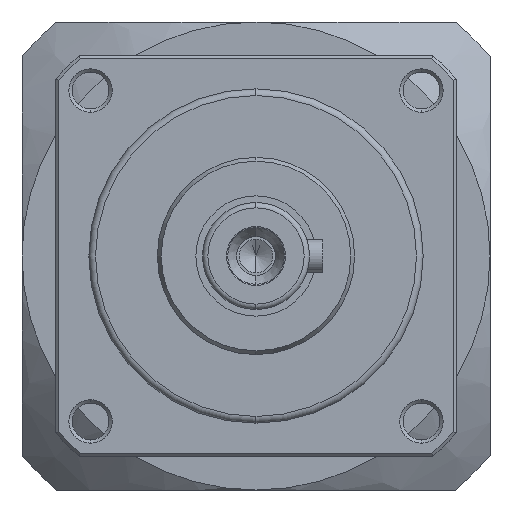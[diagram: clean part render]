
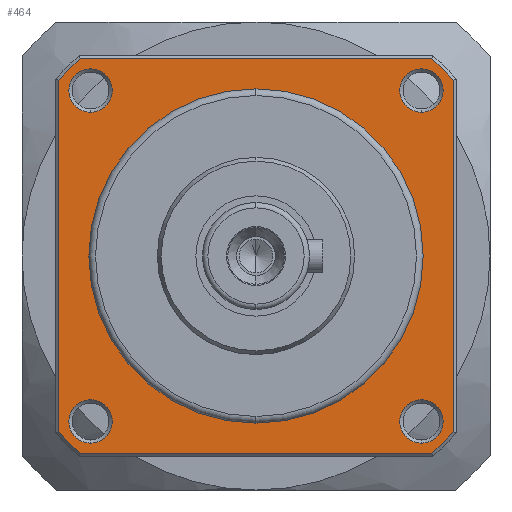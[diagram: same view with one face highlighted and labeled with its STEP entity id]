
A CAD part, left-side view. The second image highlights one B-rep face of the part: STEP entity #464.
In plain terms, the highlighted planar face has unit normal (-1, 0, 0).
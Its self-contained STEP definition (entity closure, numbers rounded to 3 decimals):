
#176=PLANE('',#4654);
#282=FACE_BOUND('',#1096,.T.);
#283=FACE_BOUND('',#1097,.T.);
#284=FACE_BOUND('',#1098,.T.);
#285=FACE_BOUND('',#1099,.T.);
#286=FACE_BOUND('',#1100,.T.);
#287=FACE_BOUND('',#1101,.T.);
#464=ADVANCED_FACE('',(#282,#283,#284,#285,#286,#287),#176,.F.);
#1096=EDGE_LOOP('',(#2117,#2118));
#1097=EDGE_LOOP('',(#2119,#2120));
#1098=EDGE_LOOP('',(#2121,#2122));
#1099=EDGE_LOOP('',(#2123,#2124));
#1100=EDGE_LOOP('',(#2125,#2126,#2127,#2128,#2129,#2130,#2131,#2132));
#1101=EDGE_LOOP('',(#2133,#2134));
#1438=LINE('',#6751,#1741);
#1439=LINE('',#6756,#1742);
#1440=LINE('',#6760,#1743);
#1441=LINE('',#6764,#1744);
#1741=VECTOR('',#5339,1.);
#1742=VECTOR('',#5342,1.);
#1743=VECTOR('',#5345,1.);
#1744=VECTOR('',#5348,1.);
#2117=ORIENTED_EDGE('',*,*,#3701,.T.);
#2118=ORIENTED_EDGE('',*,*,#3770,.T.);
#2119=ORIENTED_EDGE('',*,*,#3693,.T.);
#2120=ORIENTED_EDGE('',*,*,#3771,.T.);
#2121=ORIENTED_EDGE('',*,*,#3685,.T.);
#2122=ORIENTED_EDGE('',*,*,#3772,.T.);
#2123=ORIENTED_EDGE('',*,*,#3677,.T.);
#2124=ORIENTED_EDGE('',*,*,#3773,.T.);
#2125=ORIENTED_EDGE('',*,*,#3774,.T.);
#2126=ORIENTED_EDGE('',*,*,#3775,.T.);
#2127=ORIENTED_EDGE('',*,*,#3776,.T.);
#2128=ORIENTED_EDGE('',*,*,#3777,.T.);
#2129=ORIENTED_EDGE('',*,*,#3778,.T.);
#2130=ORIENTED_EDGE('',*,*,#3779,.T.);
#2131=ORIENTED_EDGE('',*,*,#3780,.T.);
#2132=ORIENTED_EDGE('',*,*,#3781,.T.);
#2133=ORIENTED_EDGE('',*,*,#3735,.F.);
#2134=ORIENTED_EDGE('',*,*,#3782,.F.);
#3294=VERTEX_POINT('',#6538);
#3295=VERTEX_POINT('',#6540);
#3302=VERTEX_POINT('',#6556);
#3303=VERTEX_POINT('',#6558);
#3310=VERTEX_POINT('',#6574);
#3311=VERTEX_POINT('',#6576);
#3318=VERTEX_POINT('',#6592);
#3319=VERTEX_POINT('',#6594);
#3341=VERTEX_POINT('',#6662);
#3342=VERTEX_POINT('',#6663);
#3371=VERTEX_POINT('',#6752);
#3372=VERTEX_POINT('',#6753);
#3373=VERTEX_POINT('',#6755);
#3374=VERTEX_POINT('',#6757);
#3375=VERTEX_POINT('',#6759);
#3376=VERTEX_POINT('',#6761);
#3377=VERTEX_POINT('',#6763);
#3378=VERTEX_POINT('',#6765);
#3677=EDGE_CURVE('',#3295,#3294,#4309,.T.);
#3685=EDGE_CURVE('',#3303,#3302,#4313,.T.);
#3693=EDGE_CURVE('',#3311,#3310,#4317,.T.);
#3701=EDGE_CURVE('',#3319,#3318,#4321,.T.);
#3735=EDGE_CURVE('',#3341,#3342,#4336,.T.);
#3770=EDGE_CURVE('',#3318,#3319,#4351,.T.);
#3771=EDGE_CURVE('',#3310,#3311,#4352,.T.);
#3772=EDGE_CURVE('',#3302,#3303,#4353,.T.);
#3773=EDGE_CURVE('',#3294,#3295,#4354,.T.);
#3774=EDGE_CURVE('',#3371,#3372,#1438,.T.);
#3775=EDGE_CURVE('',#3372,#3373,#4355,.T.);
#3776=EDGE_CURVE('',#3373,#3374,#1439,.T.);
#3777=EDGE_CURVE('',#3374,#3375,#4356,.T.);
#3778=EDGE_CURVE('',#3375,#3376,#1440,.T.);
#3779=EDGE_CURVE('',#3376,#3377,#4357,.T.);
#3780=EDGE_CURVE('',#3377,#3378,#1441,.T.);
#3781=EDGE_CURVE('',#3378,#3371,#4358,.T.);
#3782=EDGE_CURVE('',#3342,#3341,#4359,.T.);
#4309=CIRCLE('',#4576,3.25);
#4313=CIRCLE('',#4582,3.25);
#4317=CIRCLE('',#4588,3.25);
#4321=CIRCLE('',#4594,3.25);
#4336=CIRCLE('',#4621,25.);
#4351=CIRCLE('',#4645,3.25);
#4352=CIRCLE('',#4646,3.25);
#4353=CIRCLE('',#4647,3.25);
#4354=CIRCLE('',#4648,3.25);
#4355=CIRCLE('',#4649,39.5);
#4356=CIRCLE('',#4650,39.5);
#4357=CIRCLE('',#4651,39.5);
#4358=CIRCLE('',#4652,39.5);
#4359=CIRCLE('',#4653,25.);
#4576=AXIS2_PLACEMENT_3D('',#6539,#5146,#5147);
#4582=AXIS2_PLACEMENT_3D('',#6557,#5162,#5163);
#4588=AXIS2_PLACEMENT_3D('',#6575,#5178,#5179);
#4594=AXIS2_PLACEMENT_3D('',#6593,#5194,#5195);
#4621=AXIS2_PLACEMENT_3D('',#6661,#5267,#5268);
#4645=AXIS2_PLACEMENT_3D('',#6747,#5331,#5332);
#4646=AXIS2_PLACEMENT_3D('',#6748,#5333,#5334);
#4647=AXIS2_PLACEMENT_3D('',#6749,#5335,#5336);
#4648=AXIS2_PLACEMENT_3D('',#6750,#5337,#5338);
#4649=AXIS2_PLACEMENT_3D('',#6754,#5340,#5341);
#4650=AXIS2_PLACEMENT_3D('',#6758,#5343,#5344);
#4651=AXIS2_PLACEMENT_3D('',#6762,#5346,#5347);
#4652=AXIS2_PLACEMENT_3D('',#6766,#5349,#5350);
#4653=AXIS2_PLACEMENT_3D('',#6767,#5351,#5352);
#4654=AXIS2_PLACEMENT_3D('',#6768,#5353,#5354);
#5146=DIRECTION('',(1.,0.,0.));
#5147=DIRECTION('',(0.,0.,-1.));
#5162=DIRECTION('',(1.,0.,0.));
#5163=DIRECTION('',(0.,0.,-1.));
#5178=DIRECTION('',(1.,0.,0.));
#5179=DIRECTION('',(0.,0.,-1.));
#5194=DIRECTION('',(1.,0.,0.));
#5195=DIRECTION('',(0.,0.,-1.));
#5267=DIRECTION('',(-1.,0.,0.));
#5268=DIRECTION('',(0.,0.,1.));
#5331=DIRECTION('',(1.,0.,0.));
#5332=DIRECTION('',(0.,0.,-1.));
#5333=DIRECTION('',(1.,0.,0.));
#5334=DIRECTION('',(0.,0.,-1.));
#5335=DIRECTION('',(1.,0.,0.));
#5336=DIRECTION('',(0.,0.,-1.));
#5337=DIRECTION('',(1.,0.,0.));
#5338=DIRECTION('',(0.,0.,-1.));
#5339=DIRECTION('',(0.,1.,0.));
#5340=DIRECTION('',(-1.,0.,0.));
#5341=DIRECTION('',(0.,0.,-1.));
#5342=DIRECTION('',(0.,0.,-1.));
#5343=DIRECTION('',(-1.,0.,0.));
#5344=DIRECTION('',(0.,0.,-1.));
#5345=DIRECTION('',(0.,-1.,0.));
#5346=DIRECTION('',(-1.,0.,0.));
#5347=DIRECTION('',(0.,0.,-1.));
#5348=DIRECTION('',(0.,0.,1.));
#5349=DIRECTION('',(-1.,0.,0.));
#5350=DIRECTION('',(0.,0.,-1.));
#5351=DIRECTION('',(-1.,0.,0.));
#5352=DIRECTION('',(0.,0.,1.));
#5353=DIRECTION('',(1.,0.,0.));
#5354=DIRECTION('',(0.,0.,-1.));
#6538=CARTESIAN_POINT('',(37.,24.749,21.499));
#6539=CARTESIAN_POINT('',(37.,24.749,24.749));
#6540=CARTESIAN_POINT('',(37.,24.749,27.999));
#6556=CARTESIAN_POINT('',(37.,24.749,-27.999));
#6557=CARTESIAN_POINT('',(37.,24.749,-24.749));
#6558=CARTESIAN_POINT('',(37.,24.749,-21.499));
#6574=CARTESIAN_POINT('',(37.,-24.749,-27.999));
#6575=CARTESIAN_POINT('',(37.,-24.749,-24.749));
#6576=CARTESIAN_POINT('',(37.,-24.749,-21.499));
#6592=CARTESIAN_POINT('',(37.,-24.749,21.499));
#6593=CARTESIAN_POINT('',(37.,-24.749,24.749));
#6594=CARTESIAN_POINT('',(37.,-24.749,27.999));
#6661=CARTESIAN_POINT('',(37.,0.,0.));
#6662=CARTESIAN_POINT('',(37.,0.,25.));
#6663=CARTESIAN_POINT('',(37.,0.,-25.));
#6747=CARTESIAN_POINT('',(37.,-24.749,24.749));
#6748=CARTESIAN_POINT('',(37.,-24.749,-24.749));
#6749=CARTESIAN_POINT('',(37.,24.749,-24.749));
#6750=CARTESIAN_POINT('',(37.,24.749,24.749));
#6751=CARTESIAN_POINT('',(37.,26.458,29.5));
#6752=CARTESIAN_POINT('',(37.,-26.268,29.5));
#6753=CARTESIAN_POINT('',(37.,26.268,29.5));
#6754=CARTESIAN_POINT('',(37.,0.,0.));
#6755=CARTESIAN_POINT('',(37.,29.5,26.268));
#6756=CARTESIAN_POINT('',(37.,29.5,-26.458));
#6757=CARTESIAN_POINT('',(37.,29.5,-26.268));
#6758=CARTESIAN_POINT('',(37.,0.,0.));
#6759=CARTESIAN_POINT('',(37.,26.268,-29.5));
#6760=CARTESIAN_POINT('',(37.,-26.458,-29.5));
#6761=CARTESIAN_POINT('',(37.,-26.268,-29.5));
#6762=CARTESIAN_POINT('',(37.,0.,0.));
#6763=CARTESIAN_POINT('',(37.,-29.5,-26.268));
#6764=CARTESIAN_POINT('',(37.,-29.5,26.458));
#6765=CARTESIAN_POINT('',(37.,-29.5,26.268));
#6766=CARTESIAN_POINT('',(37.,0.,0.));
#6767=CARTESIAN_POINT('',(37.,0.,0.));
#6768=CARTESIAN_POINT('',(37.,25.,0.));
